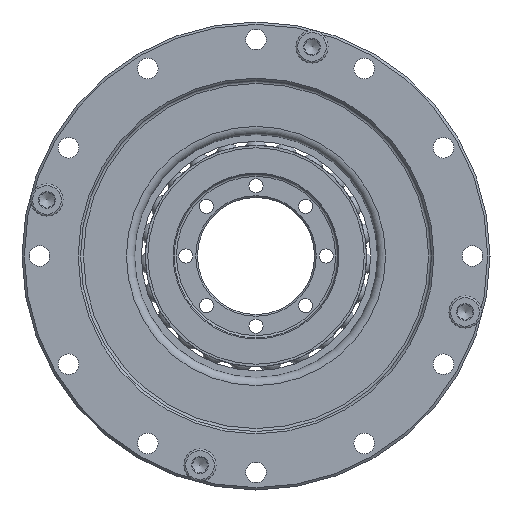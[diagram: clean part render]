
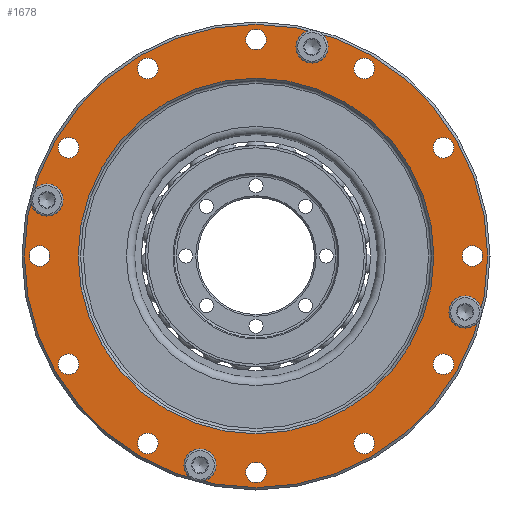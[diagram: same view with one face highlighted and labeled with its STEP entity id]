
A CAD part, left-side view. The second image highlights one B-rep face of the part: STEP entity #1678.
In plain terms, the highlighted planar face has unit normal (-1, 0, 0).
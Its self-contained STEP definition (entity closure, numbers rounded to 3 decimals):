
#1511=PLANE('',#8910);
#1678=ADVANCED_FACE('',(#2456,#2457,#2458,#2459,#2460,#2461,#2462,#2463,
#2464,#2465,#2466,#2467,#2468,#2469,#2470,#2471,#2472,#2473),#1511,.T.);
#2456=FACE_BOUND('',#3223,.T.);
#2457=FACE_BOUND('',#3224,.T.);
#2458=FACE_BOUND('',#3225,.T.);
#2459=FACE_BOUND('',#3226,.T.);
#2460=FACE_BOUND('',#3227,.T.);
#2461=FACE_BOUND('',#3228,.T.);
#2462=FACE_BOUND('',#3229,.T.);
#2463=FACE_BOUND('',#3230,.T.);
#2464=FACE_BOUND('',#3231,.T.);
#2465=FACE_BOUND('',#3232,.T.);
#2466=FACE_BOUND('',#3233,.T.);
#2467=FACE_BOUND('',#3234,.T.);
#2468=FACE_BOUND('',#3235,.T.);
#2469=FACE_BOUND('',#3236,.T.);
#2470=FACE_BOUND('',#3237,.T.);
#2471=FACE_BOUND('',#3238,.T.);
#2472=FACE_BOUND('',#3239,.T.);
#2473=FACE_BOUND('',#3240,.T.);
#3223=EDGE_LOOP('',(#4191));
#3224=EDGE_LOOP('',(#4192));
#3225=EDGE_LOOP('',(#4193));
#3226=EDGE_LOOP('',(#4194));
#3227=EDGE_LOOP('',(#4195));
#3228=EDGE_LOOP('',(#4196));
#3229=EDGE_LOOP('',(#4197));
#3230=EDGE_LOOP('',(#4198));
#3231=EDGE_LOOP('',(#4199));
#3232=EDGE_LOOP('',(#4200));
#3233=EDGE_LOOP('',(#4201));
#3234=EDGE_LOOP('',(#4202));
#3235=EDGE_LOOP('',(#4203));
#3236=EDGE_LOOP('',(#4204));
#3237=EDGE_LOOP('',(#4205));
#3238=EDGE_LOOP('',(#4206));
#3239=EDGE_LOOP('',(#4207));
#3240=EDGE_LOOP('',(#4208));
#4191=ORIENTED_EDGE('',*,*,#7033,.F.);
#4192=ORIENTED_EDGE('',*,*,#7034,.F.);
#4193=ORIENTED_EDGE('',*,*,#7035,.F.);
#4194=ORIENTED_EDGE('',*,*,#7036,.F.);
#4195=ORIENTED_EDGE('',*,*,#7037,.F.);
#4196=ORIENTED_EDGE('',*,*,#7038,.F.);
#4197=ORIENTED_EDGE('',*,*,#7039,.F.);
#4198=ORIENTED_EDGE('',*,*,#7040,.F.);
#4199=ORIENTED_EDGE('',*,*,#7041,.F.);
#4200=ORIENTED_EDGE('',*,*,#7042,.F.);
#4201=ORIENTED_EDGE('',*,*,#7043,.F.);
#4202=ORIENTED_EDGE('',*,*,#7044,.F.);
#4203=ORIENTED_EDGE('',*,*,#7045,.F.);
#4204=ORIENTED_EDGE('',*,*,#7046,.F.);
#4205=ORIENTED_EDGE('',*,*,#7047,.F.);
#4206=ORIENTED_EDGE('',*,*,#7048,.F.);
#4207=ORIENTED_EDGE('',*,*,#7049,.T.);
#4208=ORIENTED_EDGE('',*,*,#7050,.T.);
#6217=VERTEX_POINT('',#12580);
#6218=VERTEX_POINT('',#12582);
#6219=VERTEX_POINT('',#12584);
#6220=VERTEX_POINT('',#12586);
#6221=VERTEX_POINT('',#12588);
#6222=VERTEX_POINT('',#12590);
#6223=VERTEX_POINT('',#12592);
#6224=VERTEX_POINT('',#12594);
#6225=VERTEX_POINT('',#12596);
#6226=VERTEX_POINT('',#12598);
#6227=VERTEX_POINT('',#12600);
#6228=VERTEX_POINT('',#12602);
#6229=VERTEX_POINT('',#12604);
#6230=VERTEX_POINT('',#12606);
#6231=VERTEX_POINT('',#12608);
#6232=VERTEX_POINT('',#12610);
#6233=VERTEX_POINT('',#12612);
#6234=VERTEX_POINT('',#12614);
#7033=EDGE_CURVE('',#6217,#6217,#8142,.T.);
#7034=EDGE_CURVE('',#6218,#6218,#8143,.T.);
#7035=EDGE_CURVE('',#6219,#6219,#8144,.T.);
#7036=EDGE_CURVE('',#6220,#6220,#8145,.T.);
#7037=EDGE_CURVE('',#6221,#6221,#8146,.T.);
#7038=EDGE_CURVE('',#6222,#6222,#8147,.T.);
#7039=EDGE_CURVE('',#6223,#6223,#8148,.T.);
#7040=EDGE_CURVE('',#6224,#6224,#8149,.T.);
#7041=EDGE_CURVE('',#6225,#6225,#8150,.T.);
#7042=EDGE_CURVE('',#6226,#6226,#8151,.T.);
#7043=EDGE_CURVE('',#6227,#6227,#8152,.T.);
#7044=EDGE_CURVE('',#6228,#6228,#8153,.T.);
#7045=EDGE_CURVE('',#6229,#6229,#8154,.T.);
#7046=EDGE_CURVE('',#6230,#6230,#8155,.T.);
#7047=EDGE_CURVE('',#6231,#6231,#8156,.T.);
#7048=EDGE_CURVE('',#6232,#6232,#8157,.T.);
#7049=EDGE_CURVE('',#6233,#6233,#8158,.T.);
#7050=EDGE_CURVE('',#6234,#6234,#8159,.T.);
#8142=CIRCLE('',#8892,1.75);
#8143=CIRCLE('',#8893,1.75);
#8144=CIRCLE('',#8894,1.75);
#8145=CIRCLE('',#8895,1.75);
#8146=CIRCLE('',#8896,1.75);
#8147=CIRCLE('',#8897,1.75);
#8148=CIRCLE('',#8898,1.75);
#8149=CIRCLE('',#8899,1.75);
#8150=CIRCLE('',#8900,1.75);
#8151=CIRCLE('',#8901,1.75);
#8152=CIRCLE('',#8902,1.75);
#8153=CIRCLE('',#8903,1.75);
#8154=CIRCLE('',#8904,1.75);
#8155=CIRCLE('',#8905,1.75);
#8156=CIRCLE('',#8906,1.75);
#8157=CIRCLE('',#8907,1.75);
#8158=CIRCLE('',#8908,30.4);
#8159=CIRCLE('',#8909,39.6);
#8892=AXIS2_PLACEMENT_3D('',#12579,#10117,#10118);
#8893=AXIS2_PLACEMENT_3D('',#12581,#10119,#10120);
#8894=AXIS2_PLACEMENT_3D('',#12583,#10121,#10122);
#8895=AXIS2_PLACEMENT_3D('',#12585,#10123,#10124);
#8896=AXIS2_PLACEMENT_3D('',#12587,#10125,#10126);
#8897=AXIS2_PLACEMENT_3D('',#12589,#10127,#10128);
#8898=AXIS2_PLACEMENT_3D('',#12591,#10129,#10130);
#8899=AXIS2_PLACEMENT_3D('',#12593,#10131,#10132);
#8900=AXIS2_PLACEMENT_3D('',#12595,#10133,#10134);
#8901=AXIS2_PLACEMENT_3D('',#12597,#10135,#10136);
#8902=AXIS2_PLACEMENT_3D('',#12599,#10137,#10138);
#8903=AXIS2_PLACEMENT_3D('',#12601,#10139,#10140);
#8904=AXIS2_PLACEMENT_3D('',#12603,#10141,#10142);
#8905=AXIS2_PLACEMENT_3D('',#12605,#10143,#10144);
#8906=AXIS2_PLACEMENT_3D('',#12607,#10145,#10146);
#8907=AXIS2_PLACEMENT_3D('',#12609,#10147,#10148);
#8908=AXIS2_PLACEMENT_3D('',#12611,#10149,#10150);
#8909=AXIS2_PLACEMENT_3D('',#12613,#10151,#10152);
#8910=AXIS2_PLACEMENT_3D('',#12615,#10153,#10154);
#10117=DIRECTION('',(-1.,0.,0.));
#10118=DIRECTION('',(0.,-0.866,0.5));
#10119=DIRECTION('',(-1.,0.,0.));
#10120=DIRECTION('',(0.,-0.866,0.5));
#10121=DIRECTION('',(-1.,0.,0.));
#10122=DIRECTION('',(0.,-0.866,0.5));
#10123=DIRECTION('',(-1.,0.,0.));
#10124=DIRECTION('',(0.,-0.866,0.5));
#10125=DIRECTION('',(-1.,0.,0.));
#10126=DIRECTION('',(0.,-0.866,0.5));
#10127=DIRECTION('',(-1.,0.,0.));
#10128=DIRECTION('',(0.,-0.866,0.5));
#10129=DIRECTION('',(-1.,0.,0.));
#10130=DIRECTION('',(0.,-0.866,0.5));
#10131=DIRECTION('',(-1.,0.,0.));
#10132=DIRECTION('',(0.,-0.866,0.5));
#10133=DIRECTION('',(-1.,0.,0.));
#10134=DIRECTION('',(0.,-0.866,0.5));
#10135=DIRECTION('',(-1.,0.,0.));
#10136=DIRECTION('',(0.,-0.866,0.5));
#10137=DIRECTION('',(-1.,0.,0.));
#10138=DIRECTION('',(0.,-0.866,0.5));
#10139=DIRECTION('',(-1.,0.,0.));
#10140=DIRECTION('',(0.,-0.866,0.5));
#10141=DIRECTION('',(-1.,0.,0.));
#10142=DIRECTION('',(0.,-0.866,0.5));
#10143=DIRECTION('',(-1.,0.,0.));
#10144=DIRECTION('',(0.,-0.866,0.5));
#10145=DIRECTION('',(-1.,0.,0.));
#10146=DIRECTION('',(0.,-0.866,0.5));
#10147=DIRECTION('',(-1.,0.,0.));
#10148=DIRECTION('',(0.,-0.866,0.5));
#10149=DIRECTION('',(1.,0.,0.));
#10150=DIRECTION('',(0.,-0.866,0.5));
#10151=DIRECTION('',(-1.,0.,0.));
#10152=DIRECTION('',(0.,-0.866,0.5));
#10153=DIRECTION('',(-1.,0.,0.));
#10154=DIRECTION('',(0.,-0.866,0.5));
#12579=CARTESIAN_POINT('',(-26.5,-9.576,35.739));
#12580=CARTESIAN_POINT('',(-26.5,-11.092,36.614));
#12581=CARTESIAN_POINT('',(-26.5,35.739,9.576));
#12582=CARTESIAN_POINT('',(-26.5,34.224,10.451));
#12583=CARTESIAN_POINT('',(-26.5,9.576,-35.739));
#12584=CARTESIAN_POINT('',(-26.5,8.061,-34.864));
#12585=CARTESIAN_POINT('',(-26.5,-35.739,-9.576));
#12586=CARTESIAN_POINT('',(-26.5,-37.255,-8.701));
#12587=CARTESIAN_POINT('',(-26.5,-37.,0.));
#12588=CARTESIAN_POINT('',(-26.5,-38.516,0.875));
#12589=CARTESIAN_POINT('',(-26.5,-32.043,-18.5));
#12590=CARTESIAN_POINT('',(-26.5,-33.558,-17.625));
#12591=CARTESIAN_POINT('',(-26.5,-18.5,-32.043));
#12592=CARTESIAN_POINT('',(-26.5,-20.016,-31.168));
#12593=CARTESIAN_POINT('',(-26.5,0.,-37.));
#12594=CARTESIAN_POINT('',(-26.5,-1.516,-36.125));
#12595=CARTESIAN_POINT('',(-26.5,18.5,-32.043));
#12596=CARTESIAN_POINT('',(-26.5,16.984,-31.168));
#12597=CARTESIAN_POINT('',(-26.5,32.043,-18.5));
#12598=CARTESIAN_POINT('',(-26.5,30.527,-17.625));
#12599=CARTESIAN_POINT('',(-26.5,37.,0.));
#12600=CARTESIAN_POINT('',(-26.5,35.484,0.875));
#12601=CARTESIAN_POINT('',(-26.5,32.043,18.5));
#12602=CARTESIAN_POINT('',(-26.5,30.527,19.375));
#12603=CARTESIAN_POINT('',(-26.5,18.5,32.043));
#12604=CARTESIAN_POINT('',(-26.5,16.984,32.918));
#12605=CARTESIAN_POINT('',(-26.5,0.,37.));
#12606=CARTESIAN_POINT('',(-26.5,-1.516,37.875));
#12607=CARTESIAN_POINT('',(-26.5,-18.5,32.043));
#12608=CARTESIAN_POINT('',(-26.5,-20.016,32.918));
#12609=CARTESIAN_POINT('',(-26.5,-32.043,18.5));
#12610=CARTESIAN_POINT('',(-26.5,-33.558,19.375));
#12611=CARTESIAN_POINT('',(-26.5,0.,0.));
#12612=CARTESIAN_POINT('',(-26.5,-26.327,15.2));
#12613=CARTESIAN_POINT('',(-26.5,0.,0.));
#12614=CARTESIAN_POINT('',(-26.5,-34.295,19.8));
#12615=CARTESIAN_POINT('',(-26.5,15.,25.981));
